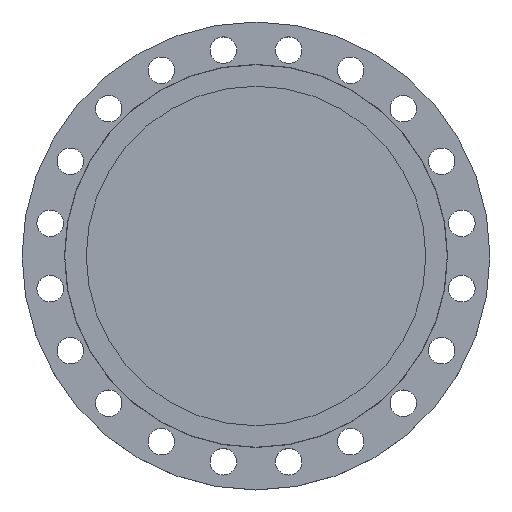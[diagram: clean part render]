
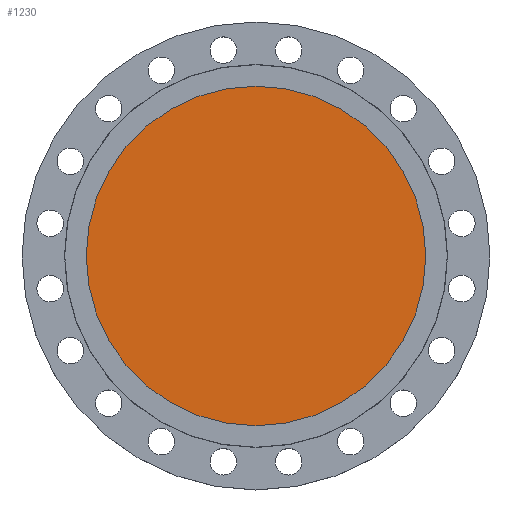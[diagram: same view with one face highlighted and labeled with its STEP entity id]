
A CAD part, top view. The second image highlights one B-rep face of the part: STEP entity #1230.
In plain terms, the highlighted planar face has unit normal (0, 0, 1).
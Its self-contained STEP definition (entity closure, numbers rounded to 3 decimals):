
#74 = EDGE_CURVE ( 'NONE', #1860, #541, #1486, .T. ) ;
#182 = CARTESIAN_POINT ( 'NONE',  ( -248.5, 0., -5.5 ) ) ;
#402 = PLANE ( 'NONE',  #1411 ) ;
#427 = CIRCLE ( 'NONE', #429, 248.5 ) ;
#429 = AXIS2_PLACEMENT_3D ( 'NONE', #978, #977, #976 ) ;
#541 = VERTEX_POINT ( 'NONE', #1010 ) ;
#585 = DIRECTION ( 'NONE',  ( 1., 0., 0. ) ) ;
#589 = DIRECTION ( 'NONE',  ( 0., 0., 1. ) ) ;
#590 = CARTESIAN_POINT ( 'NONE',  ( 0., 0., -5.5 ) ) ;
#594 = EDGE_LOOP ( 'NONE', ( #1643, #1638 ) ) ;
#604 = EDGE_CURVE ( 'NONE', #541, #1860, #427, .T. ) ;
#976 = DIRECTION ( 'NONE',  ( -1., 0., 0. ) ) ;
#977 = DIRECTION ( 'NONE',  ( 0., 0., -1. ) ) ;
#978 = CARTESIAN_POINT ( 'NONE',  ( 0., 0., -5.5 ) ) ;
#1010 = CARTESIAN_POINT ( 'NONE',  ( 248.5, 0., -5.5 ) ) ;
#1230 = ADVANCED_FACE ( 'NONE', ( #1524 ), #402, .T. ) ;
#1333 = DIRECTION ( 'NONE',  ( -1., 0., 0. ) ) ;
#1336 = DIRECTION ( 'NONE',  ( 0., 0., -1. ) ) ;
#1337 = CARTESIAN_POINT ( 'NONE',  ( 0., 0., -5.5 ) ) ;
#1411 = AXIS2_PLACEMENT_3D ( 'NONE', #590, #589, #585 ) ;
#1486 = CIRCLE ( 'NONE', #1490, 248.5 ) ;
#1490 = AXIS2_PLACEMENT_3D ( 'NONE', #1337, #1336, #1333 ) ;
#1524 = FACE_OUTER_BOUND ( 'NONE', #594, .T. ) ;
#1638 = ORIENTED_EDGE ( 'NONE', *, *, #604, .F. ) ;
#1643 = ORIENTED_EDGE ( 'NONE', *, *, #74, .F. ) ;
#1860 = VERTEX_POINT ( 'NONE', #182 ) ;
